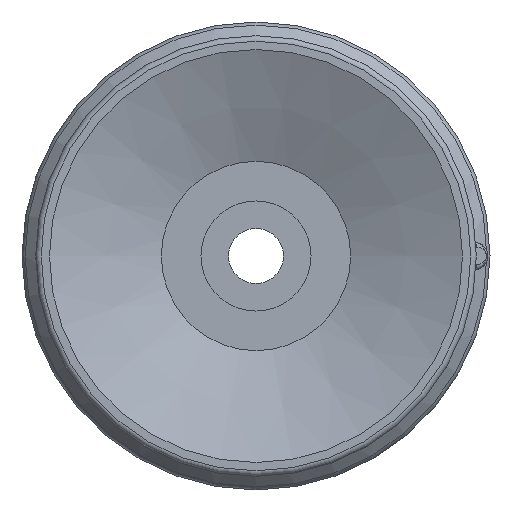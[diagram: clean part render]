
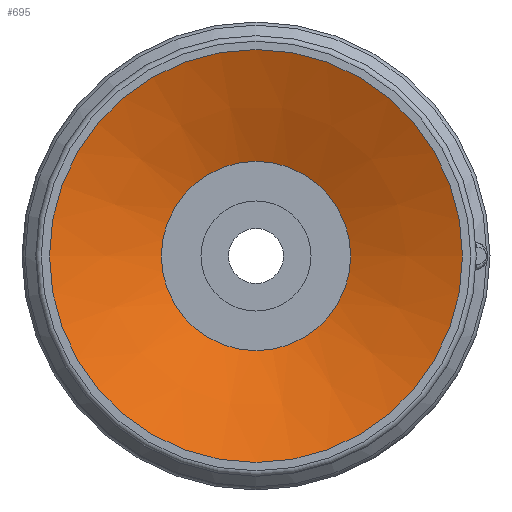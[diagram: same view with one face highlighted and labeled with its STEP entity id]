
A CAD part, front view. The second image highlights one B-rep face of the part: STEP entity #695.
In plain terms, the highlighted conical face has half-angle 67.5 degrees and reference radius 3.437 mm.
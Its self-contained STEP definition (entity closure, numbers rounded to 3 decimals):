
#695=ADVANCED_FACE('',(#1004,#1005),#1006,.F.);
#1004=FACE_BOUND('',#2422,.T.);
#1005=FACE_OUTER_BOUND('',#2423,.T.);
#1006=CONICAL_SURFACE('',#2424,3.437,1.178);
#2422=EDGE_LOOP('',(#3470));
#2423=EDGE_LOOP('',(#3471));
#2424=AXIS2_PLACEMENT_3D('',#3472,#3473,#3474);
#3470=ORIENTED_EDGE('',*,*,#4043,.F.);
#3471=ORIENTED_EDGE('',*,*,#4031,.T.);
#3472=CARTESIAN_POINT('',(0.0,0.0,1.683));
#3473=DIRECTION('',(0.0,0.,-1.0));
#3474=DIRECTION('',(0.0,1.0,0.));
#4031=EDGE_CURVE('',#4450,#4450,#4451,.T.);
#4043=EDGE_CURVE('',#4474,#4474,#4475,.T.);
#4450=VERTEX_POINT('',#5501);
#4451=CIRCLE('',#5502,7.5);
#4474=VERTEX_POINT('',#5525);
#4475=CIRCLE('',#5526,3.437);
#5501=CARTESIAN_POINT('',(-7.5,0.0,0.));
#5502=AXIS2_PLACEMENT_3D('',#6241,#6242,#6243);
#5525=CARTESIAN_POINT('',(-3.437,0.0,1.683));
#5526=AXIS2_PLACEMENT_3D('',#6277,#6278,#6279);
#6241=CARTESIAN_POINT('',(0.0,0.0,0.));
#6242=DIRECTION('',(0.0,0.,-1.0));
#6243=DIRECTION('',(0.0,1.0,0.));
#6277=CARTESIAN_POINT('',(0.0,0.0,1.683));
#6278=DIRECTION('',(0.0,0.,-1.0));
#6279=DIRECTION('',(0.0,1.0,0.));
